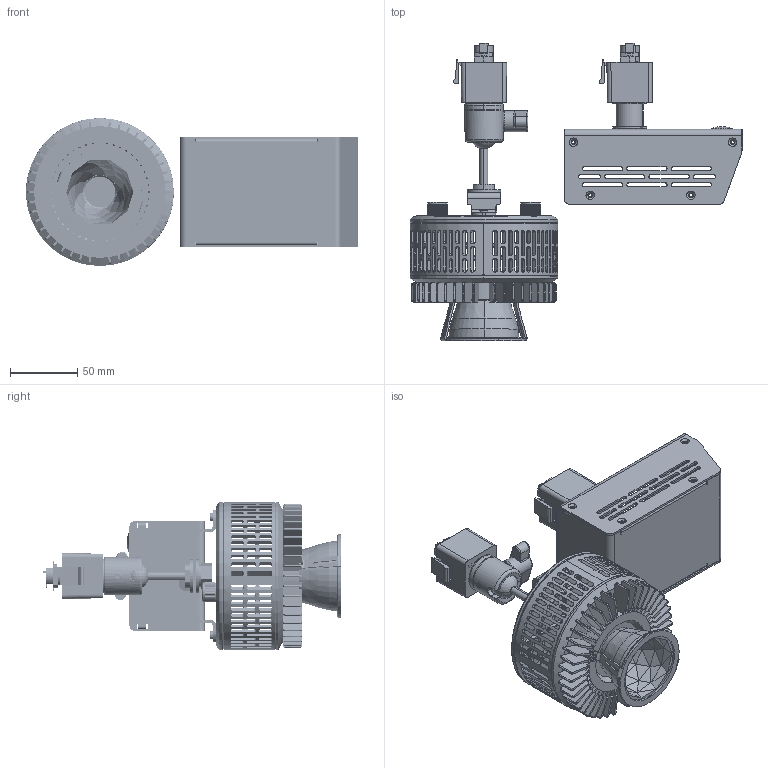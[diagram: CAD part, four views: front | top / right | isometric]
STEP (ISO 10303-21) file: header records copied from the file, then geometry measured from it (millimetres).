
FILE_DESCRIPTION (( 'STEP AP214' ), '1' );
FILE_NAME ('W360N-TG-PS.STEP', '2024-01-31T00:59:45', ( '' ), ( '' ), 'SwSTEP 2.0', 'SolidWorks 2022', '' );
FILE_SCHEMA (( 'AUTOMOTIVE_DESIGN' ));
Length unit declared in the file: millimetre
Products named in the file (38): 5047581-XXX_A2_Track Adapter for Global Eco Track (GES Series)_For W500 Power Box; 5022708-XXX_A2_Ball Joint Axis, L=65.8mm___; 5022693-XXX_A1_Bracket, 98.85x25x17.5, T=2.5mm___; 62280-2163006_ _SCREW, FLAT HEAD TORX W-THD LOCK, SUS-304, BLACK, M3.0 x L6.0mm___; 5020757-002_A2_VR Washer, Kessil A360 Aquarium Light___; 5020757-001_A1_VR Nut, Kessil A360 Aquarium Light___; 5022493-XXX_A2_Spacer Support, ID10.5 OD20 H17mm___; 5021925_A1_PLATE, R=37.5, W=50, T=2MM___; 5020893-2010525020_ _Flat Washer, M10, ID10.5 OD25.0, T2 SUS 304___; 5120522-XXX_A3_Assembly BOM, W360&W500 Light Mounting Type_For W360_TSG; 5022405-XXX_A1_Wing Knob Screws, M6xL8.0mm_-001; 62280-5413010_ _SCREW, FLAT PAN HEAD, TORX W-THD LOCK, SUS-304, M3xL10mm___; 5021416_A1_Hex Nut, M10xP1.5, T8 SUS___; 5022431-XXX_A1_Ball Joint Part A, L=23.7mm___; 5022516-00031_A1_Button Type Round Hole Plug for KANG YANG, Black___; 5020893-3211020005_ _Flat Washer Customized, Nylon Black, ID11mm OD20mm T0.5mm___; 5020897-2010216520_ _Helical Spring Washer Customized___; 5022398-XXX_A1_Plug for W Series, 19x10x9.4mm_For W360; W360N-TG-PS; 5022430-XXX_A1_Ball Joint Part C (For TDE), L=18.9mm___; 5022534-XXX_A1_150W Power Box Cover, 132.5x79x54.5(H)mm, TG&TJ&CLP&TEX-PS Type_PS; 5120532-XXX_A1_Rear Panel, OD=110, T=8.3mm, W-Series_____; 5120511-XXX_A3_Assembly BOM, Power Box for W360_TOX-PS (2Circuits (9219-2S)); 5120533-XXX_A3_Housing, OD=110, ID=105, T=47.5mm, For Reflector___; 5120526-XXX_A2_Assembly BOM, W360 Reflector Type_Reflector - 35D; 5022445-XXX_A1_DC Plug for W Series, D=12mm_-002(Black); 5047581-XXX_A2_Track Adapter for Global Eco Track (GES Series)_Finish_2; 5022452-003_A3_Reflector Sink Holder, D108x14.35(H)mm (-004 is White)_-003(Black); 5010176-XXX_A2_Assembly BOM, Kessil W360_35D-TSG; 5022375-XXX_A4_150W Power Box Frame, 132.5x82x56(H)mm___; 62280-1343006_ _SCREW, PAN HEAD TROX W-THD LOCK, SUS-410, BLACK, M3xL6mm___; 62432-11100100140040_ _Hex Nuts Customized, M10 P1.0 S14 T4 W-Zinc___; 62280-1363010_ _SCREW, M3x10mmL, PAN HEAD TORX WITH THREAD LOCK___; 5060069-XXX_A2_W series Reflector-35, OD=62, H=45mm___; 62282-5014005_ _Standard Types of Metric Set Screws, M4xL5, Black___; 5120521-XXX_A2_Assembly BOM, W360 Light Engine_Finish; 5022453-XXX_A1_35D Sink Holder B, 71.2x62.2x31.1(H)mm___; 5021926-XXX_A2_KNOB, 18T, OD=14.9, ID=6, L=10MM_C1
Assembly tree (46 placements, depth 4):
  W360N-TG-PS
    5010176-XXX_A2_Assembly BOM, Kessil W360_35D-TSG
      5120521-XXX_A2_Assembly BOM, W360 Light Engine_Finish
        5120532-XXX_A1_Rear Panel, OD=110, T=8.3mm, W-Series_____
        5022445-XXX_A1_DC Plug for W Series, D=12mm_-002(Black)
        5022398-XXX_A1_Plug for W Series, 19x10x9.4mm_For W360
        62280-1363010_ _SCREW, M3x10mmL, PAN HEAD TORX WITH THREAD LOCK___  x2
        5020757-002_A2_VR Washer, Kessil A360 Aquarium Light___  x2
        5020757-001_A1_VR Nut, Kessil A360 Aquarium Light___  x2
        5021926-XXX_A2_KNOB, 18T, OD=14.9, ID=6, L=10MM_C1  x2
      5120526-XXX_A2_Assembly BOM, W360 Reflector Type_Reflector - 35D
        5120533-XXX_A3_Housing, OD=110, ID=105, T=47.5mm, For Reflector___
        5021925_A1_PLATE, R=37.5, W=50, T=2MM___
        62280-2163006_ _SCREW, FLAT HEAD TORX W-THD LOCK, SUS-304, BLACK, M3.0 x L6.0mm___  x2
        62280-1343006_ _SCREW, PAN HEAD TROX W-THD LOCK, SUS-410, BLACK, M3xL6mm___  x2
        5022452-003_A3_Reflector Sink Holder, D108x14.35(H)mm (-004 is White)_-003(Black)
        5022453-XXX_A1_35D Sink Holder B, 71.2x62.2x31.1(H)mm___
        5060069-XXX_A2_W series Reflector-35, OD=62, H=45mm___
        62280-5413010_ _SCREW, FLAT PAN HEAD, TORX W-THD LOCK, SUS-304, M3xL10mm___  x2
      5120522-XXX_A3_Assembly BOM, W360&W500 Light Mounting Type_For W360_TSG
        5022431-XXX_A1_Ball Joint Part A, L=23.7mm___
        5022430-XXX_A1_Ball Joint Part C (For TDE), L=18.9mm___
        5022708-XXX_A2_Ball Joint Axis, L=65.8mm___
        62282-5014005_ _Standard Types of Metric Set Screws, M4xL5, Black___
        5022405-XXX_A1_Wing Knob Screws, M6xL8.0mm_-001
        5022693-XXX_A1_Bracket, 98.85x25x17.5, T=2.5mm___
        5047581-XXX_A2_Track Adapter for Global Eco Track (GES Series)_Finish_2
        5020893-2010525020_ _Flat Washer, M10, ID10.5 OD25.0, T2 SUS 304___  x2
        5020897-2010216520_ _Helical Spring Washer Customized___
        5021416_A1_Hex Nut, M10xP1.5, T8 SUS___
    5120511-XXX_A3_Assembly BOM, Power Box for W360_TOX-PS (2Circuits (9219-2S))
      5022375-XXX_A4_150W Power Box Frame, 132.5x82x56(H)mm___
      5047581-XXX_A2_Track Adapter for Global Eco Track (GES Series)_For W500 Power Box
      5022493-XXX_A2_Spacer Support, ID10.5 OD20 H17mm___
      5020893-3211020005_ _Flat Washer Customized, Nylon Black, ID11mm OD20mm T0.5mm___  x2
      5022516-00031_A1_Button Type Round Hole Plug for KANG YANG, Black___
      62432-11100100140040_ _Hex Nuts Customized, M10 P1.0 S14 T4 W-Zinc___
      5022534-XXX_A1_150W Power Box Cover, 132.5x79x54.5(H)mm, TG&TJ&CLP&TEX-PS Type_PS
Bounding box: 247.17 x 221.76 x 110 mm (x, y, z)
Volume: 261554.7 mm3; surface area: 296430.4 mm2
Topology: 82 solids, 82 shells, 5189 faces, 14188 edges, 9205 vertices
Faces by surface type: plane 2229, cylinder 1737, bspline 737, cone 260, torus 196, sphere 30
Entity records: 252745 total; most frequent: CARTESIAN_POINT 111854, ORIENTED_EDGE 25098, DIRECTION 19946, EDGE_CURVE 12549, VERTEX_POINT 8162, VECTOR 6784, LINE 6784, AXIS2_PLACEMENT_3D 6581
